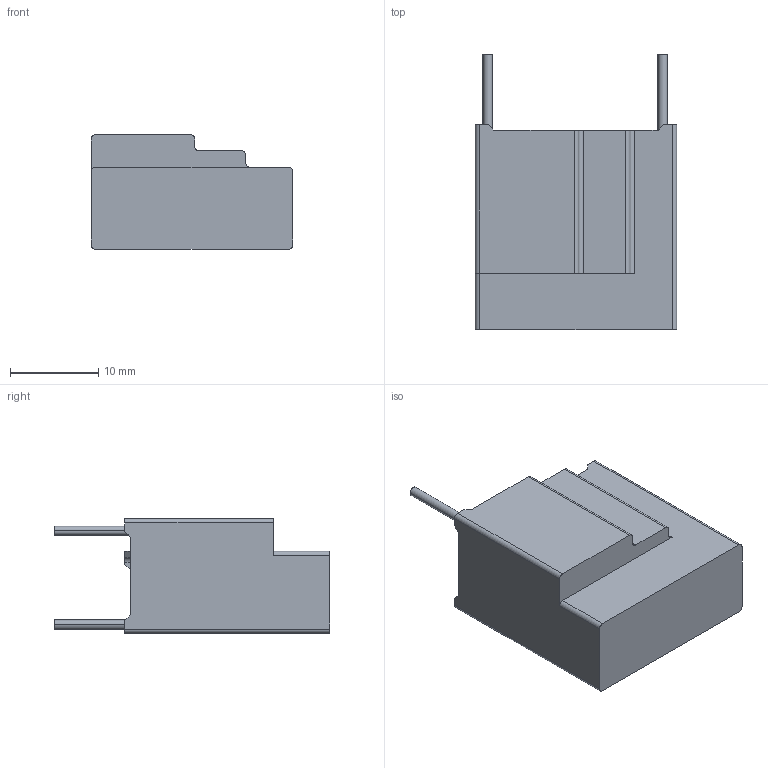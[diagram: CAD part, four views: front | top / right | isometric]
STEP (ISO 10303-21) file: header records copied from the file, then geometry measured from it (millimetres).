
FILE_DESCRIPTION((''),'2;1');
FILE_NAME('20S4601-20200616','2020-06-19T',('set'),(''),'PRO/ENGINEER BY PARAMETRIC TECHNOLOGY CORPORATION, 2012310','PRO/ENGINEER BY PARAMETRIC TECHNOLOGY CORPORATION, 2012310','');
FILE_SCHEMA(('CONFIG_CONTROL_DESIGN','SHAPE_APPEARANCE_LAYERS_GROUPS'));
Length unit declared in the file: millimetre
Products named in the file (1): 20S4601-20200616
Bounding box: 22.8 x 31.2 x 13 mm (x, y, z)
Volume: 1539.5 mm3; surface area: 3975.8 mm2
Topology: 1 solids, 2 shells, 101 faces, 285 edges, 190 vertices
Faces by surface type: plane 77, cylinder 24
Entity records: 3296 total; most frequent: CARTESIAN_POINT 576, ORIENTED_EDGE 570, DIRECTION 535, EDGE_CURVE 285, VECTOR 237, LINE 237, VERTEX_POINT 190, AXIS2_PLACEMENT_3D 149
